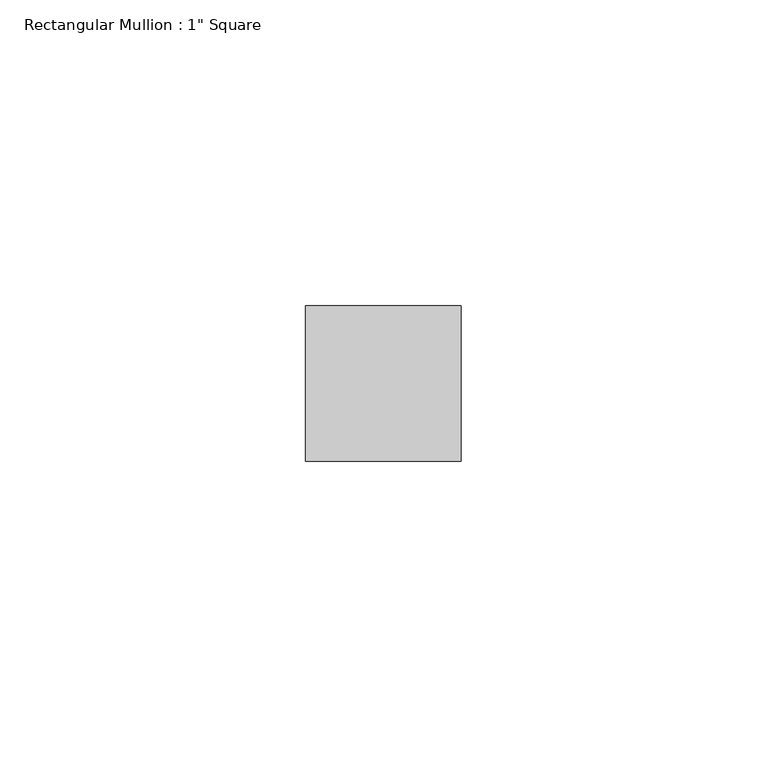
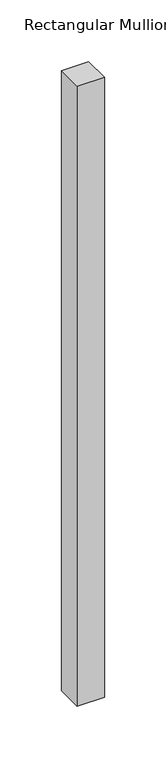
"""IFC4 building model written with IfcOpenShell, lengths in millimetres: member geometry."""

from ifc_helpers import new_model, si_unit, frame, origin, place, context, project, spatial, polyline, outline, extrude, source, transform, mapped, element, save


def member_ed473375(model_context):
    return source(origin(), model_context, "Body", "SweptSolid", [
        extrude(outline(polyline([(12.7, 12.7), (12.7, -12.7), (-12.7, -12.7), (-12.7, 12.7), (12.7, 12.7)])), frame((0.0, 0.0, -613.1194699), z_axis=(0.0, 0.0, 1.0), x_axis=(1.0, 0.0, 0.0)), (0.0, 0.0, 1.0), 613.1194699),
    ])


if __name__ == "__main__":
    model = new_model("IFC4")
    model_context = context("Model", 3, world=origin())
    ifc_project = project(units=[si_unit("LENGTHUNIT", "METRE", prefix="MILLI")], contexts=[model_context])
    site = spatial("IfcSite", under=ifc_project)
    building = spatial("IfcBuilding", under=site)
    placement = place(None, origin())
    member_shape = member_ed473375(model_context)
    element("IfcMember", 1, ObjectType="Rectangular Mullion : 1\" Square", at=placement, inside=building, context=model_context, shape_type="MappedRepresentation", body=[
        mapped(member_shape, transform((0.0, 0.0, 0.0), x_axis=(1.0, 0.0, 0.0), y_axis=(0.0, 1.0, 0.0), z_axis=(0.0, 0.0, 1.0))),
    ])
    save(model, "model.ifc")
